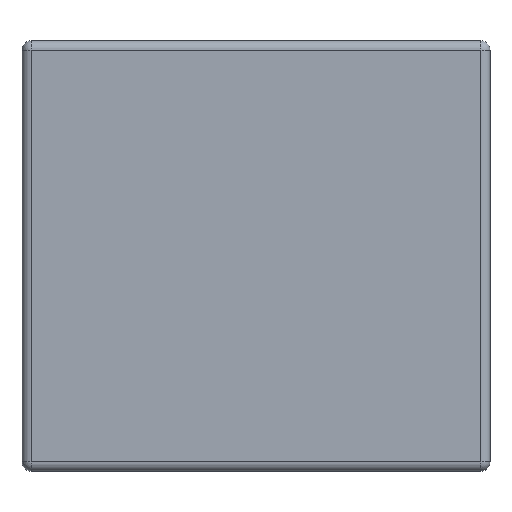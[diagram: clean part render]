
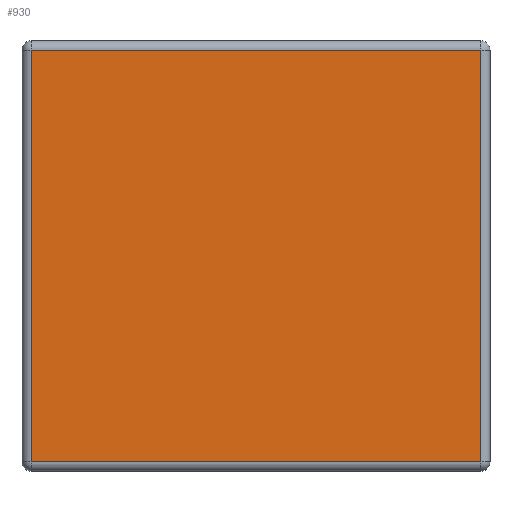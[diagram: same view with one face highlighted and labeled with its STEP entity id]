
A CAD part, front view. The second image highlights one B-rep face of the part: STEP entity #930.
In plain terms, the highlighted planar face has unit normal (0, -1, 0).
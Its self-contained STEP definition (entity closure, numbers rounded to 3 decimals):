
#139=DIRECTION('',(0.,0.,1.));
#140=VECTOR('',#139,22.);
#141=CARTESIAN_POINT('',(-12.,0.,-11.));
#142=LINE('',#141,#140);
#166=DIRECTION('',(-1.,0.,0.));
#167=VECTOR('',#166,24.);
#168=CARTESIAN_POINT('',(12.,0.,-11.));
#169=LINE('',#168,#167);
#174=DIRECTION('',(0.,0.,-1.));
#175=VECTOR('',#174,22.);
#176=CARTESIAN_POINT('',(12.,0.,11.));
#177=LINE('',#176,#175);
#224=DIRECTION('',(1.,0.,0.));
#225=VECTOR('',#224,24.);
#226=CARTESIAN_POINT('',(-12.,0.,11.));
#227=LINE('',#226,#225);
#534=CARTESIAN_POINT('',(12.,0.,11.));
#536=VERTEX_POINT('',#534);
#538=CARTESIAN_POINT('',(-12.,0.,-11.));
#540=VERTEX_POINT('',#538);
#549=CARTESIAN_POINT('',(-12.,0.,11.));
#550=VERTEX_POINT('',#549);
#585=CARTESIAN_POINT('',(12.,0.,-11.));
#586=VERTEX_POINT('',#585);
#917=CARTESIAN_POINT('',(0.,0.,0.));
#918=DIRECTION('',(0.,1.,0.));
#919=DIRECTION('',(0.,0.,1.));
#920=AXIS2_PLACEMENT_3D('',#917,#918,#919);
#921=PLANE('',#920);
#923=ORIENTED_EDGE('',*,*,#922,.T.);
#924=ORIENTED_EDGE('',*,*,#909,.T.);
#925=ORIENTED_EDGE('',*,*,#873,.T.);
#927=ORIENTED_EDGE('',*,*,#926,.T.);
#928=EDGE_LOOP('',(#923,#924,#925,#927));
#929=FACE_OUTER_BOUND('',#928,.F.);
#930=ADVANCED_FACE('',(#929),#921,.F.);
#873=EDGE_CURVE('',#540,#550,#142,.T.);
#909=EDGE_CURVE('',#586,#540,#169,.T.);
#922=EDGE_CURVE('',#536,#586,#177,.T.);
#926=EDGE_CURVE('',#550,#536,#227,.T.);
